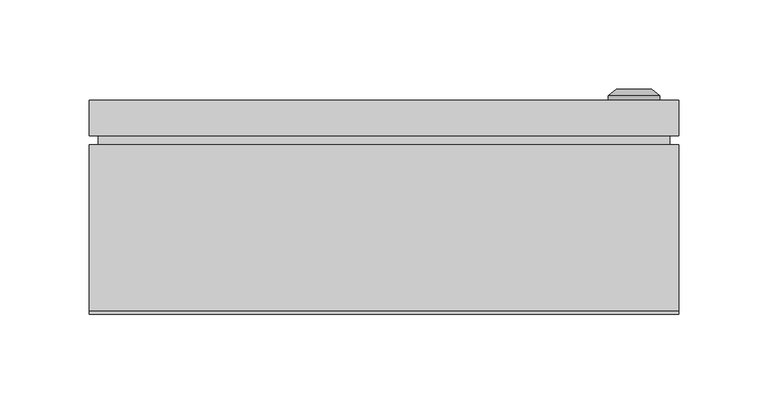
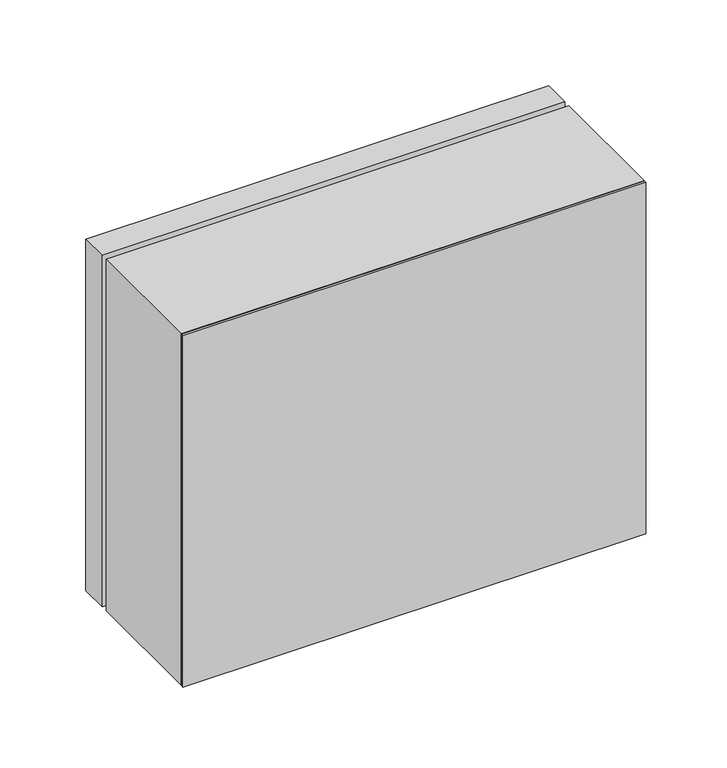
"""IFC4 building model written with IfcOpenShell, lengths in millimetres: proxy geometry, ЩРН-12_IP66 : ЩРН-12_IP66."""

from ifc_helpers import new_model, si_unit, frame, origin, origin_with_axes, place, context, project, spatial, polyline, circle_curve, outline, extrude, source, transform, mapped, element, save
from ifc_brep_helpers import plane_surface, cylinder_surface, revolved_surface, advanced_brep


def electrical_equipment_c7455dac(model_context):
    return source(origin(), model_context, "Body", "SolidModel", [
        extrude(outline(polyline([(160.0, 95.0), (-160.0, 95.0), (-160.0, 100.0), (160.0, 100.0), (160.0, 95.0)])), frame((0.0, 0.0, 5.0), z_axis=(0.0, 0.0, 1.0), x_axis=(1.0, 0.0, 0.0)), (0.0, 0.0, 1.0), 255.0),
        extrude(outline(polyline([(165.0, 100.0), (-165.0, 100.0), (-165.0, 120.0), (165.0, 120.0), (165.0, 100.0)])), origin_with_axes(), (0.0, 0.0, 1.0), 265.0),
        advanced_brep(
        [(125.669873, 120.0, 130.0), (154.330127, 120.0, 130.0), (140.0, 120.0, 130.0), (125.669873, 122.366592, 130.0), (154.330127, 122.366592, 130.0), (130.0, 126.0, 130.0), (150.0, 126.0, 130.0), (138.1080471, 126.0, 130.0), (141.8919529, 126.0, 130.0), (138.1080471, 124.9822294, 130.0), (141.8919529, 124.9822294, 130.0), (140.0, 124.9822294, 130.0)],
        [
            (0, 1, circle_curve(frame((140.0, 120.0, 130.0), z_axis=(0.0, -1.0, 0.0), x_axis=(1.0, 0.0, 0.0)), 14.330127)),
            (1, 2),
            (2, 0),
            (1, 0, circle_curve(frame((140.0, 120.0, 130.0), z_axis=(0.0, -1.0, 0.0), x_axis=(1.0, 0.0, 0.0)), 14.330127)),
            (3, 4, circle_curve(frame((140.0, 122.366592, 130.0), z_axis=(0.0, -1.0, 0.0), x_axis=(1.0, 0.0, 0.0)), 14.330127)),
            (4, 1),
            (0, 3),
            (4, 3, circle_curve(frame((140.0, 122.366592, 130.0), z_axis=(0.0, -1.0, 0.0), x_axis=(1.0, 0.0, 0.0)), 14.330127)),
            (5, 6, circle_curve(frame((140.0, 126.0, 130.0), z_axis=(0.0, -1.0, 0.0), x_axis=(1.0, 0.0, 0.0)), 10.0)),
            (6, 4),
            (3, 5),
            (6, 5, circle_curve(frame((140.0, 126.0, 130.0), z_axis=(0.0, -1.0, 0.0), x_axis=(1.0, 0.0, 0.0)), 10.0)),
            (7, 8, circle_curve(frame((140.0, 126.0, 130.0), z_axis=(0.0, -1.0, 0.0), x_axis=(1.0, 0.0, 0.0)), 1.8919529)),
            (8, 6),
            (5, 7),
            (8, 7, circle_curve(frame((140.0, 126.0, 130.0), z_axis=(0.0, -1.0, 0.0), x_axis=(1.0, 0.0, 0.0)), 1.8919529)),
            (9, 10, circle_curve(frame((140.0, 124.9822294, 130.0), z_axis=(0.0, -1.0, 0.0), x_axis=(1.0, 0.0, 0.0)), 1.8919529)),
            (10, 8),
            (7, 9),
            (10, 9, circle_curve(frame((140.0, 124.9822294, 130.0), z_axis=(0.0, -1.0, 0.0), x_axis=(1.0, 0.0, 0.0)), 1.8919529)),
            (11, 10),
            (9, 11),
        ],
        [
            plane_surface(frame((140.0, 120.0, 130.0), z_axis=(0.0, -1.0, 0.0), x_axis=(1.0, 0.0, 0.0))),
            cylinder_surface(frame((140.0, 133.1348851, 130.0), z_axis=(0.0, 1.0, 0.0), x_axis=(1.0, 0.0, 0.0)), 14.330127),
            revolved_surface(polyline([(154.330127, 122.366592, 130.0), (150.0, 126.0, 130.0)]), (140.0, 133.1348851, 130.0), (0.0, 1.0, 0.0)),
            plane_surface(frame((140.0, 126.0, 130.0), z_axis=(0.0, 1.0, 0.0), x_axis=(1.0, 0.0, 0.0))),
            revolved_surface(polyline([(141.8919529, 126.0, 130.0), (141.8919529, 124.9822294, 130.0)]), (140.0, 133.1348851, 130.0), (0.0, 1.0, 0.0)),
            plane_surface(frame((140.0, 124.9822294, 130.0), z_axis=(0.0, 1.0, 0.0), x_axis=(1.0, 0.0, 0.0))),
        ],
        [
            (0, [[1, 2, 3]]),
            (0, [[4, -3, -2]]),
            (1, [[5, 6, -1, 7]]),
            (1, [[8, -7, -4, -6]]),
            (2, [[9, 10, -5, 11]]),
            (2, [[12, -11, -8, -10]]),
            (3, [[13, 14, -9, 15]]),
            (3, [[16, -15, -12, -14]]),
            (4, [[17, 18, -13, 19]]),
            (4, [[20, -19, -16, -18]]),
            (5, [[21, -17, 22]]),
            (5, [[-22, -20, -21]]),
        ],
    ),
        extrude(outline(polyline([(265.0, -165.0033905), (0.0, -165.0033905), (0.0, 164.9966095), (265.0, 164.9966095), (265.0, -165.0033905)]), holes=[polyline([(230.0, -125.0033905), (230.0, 149.9966095), (30.0, 149.9966095), (30.0, -125.0033905), (230.0, -125.0033905)])]), frame((0.0, 2.0, 0.0), z_axis=(0.0, 1.0, 0.0), x_axis=(0.0, 0.0, 1.0)), (0.0, 0.0, 1.0), 93.0),
        extrude(outline(polyline([(165.0, 0.0), (-165.0, 0.0), (-165.0, 2.0), (165.0, 2.0), (165.0, 0.0)])), origin_with_axes(), (0.0, 0.0, 1.0), 265.0),
    ])


if __name__ == "__main__":
    model = new_model("IFC4")
    model_context = context("Model", 3, world=origin())
    ifc_project = project(units=[si_unit("LENGTHUNIT", "METRE", prefix="MILLI")], contexts=[model_context])
    site = spatial("IfcSite", under=ifc_project)
    building = spatial("IfcBuilding", under=site)
    placement = place(None, origin())
    electrical_equipment_shape = electrical_equipment_c7455dac(model_context)
    element("IfcBuildingElementProxy", 1, Name="ЩРН-12_IP66 : ЩРН-12_IP66", ObjectType="ЩРН-12_IP66 : ЩРН-12_IP66", at=placement, inside=building, context=model_context, shape_type="MappedRepresentation", body=[
        mapped(electrical_equipment_shape, transform((0.0, 0.0, 0.0), x_axis=(1.0, 0.0, 0.0), y_axis=(0.0, 1.0, 0.0), z_axis=(0.0, 0.0, 1.0))),
    ])
    save(model, "model.ifc")
